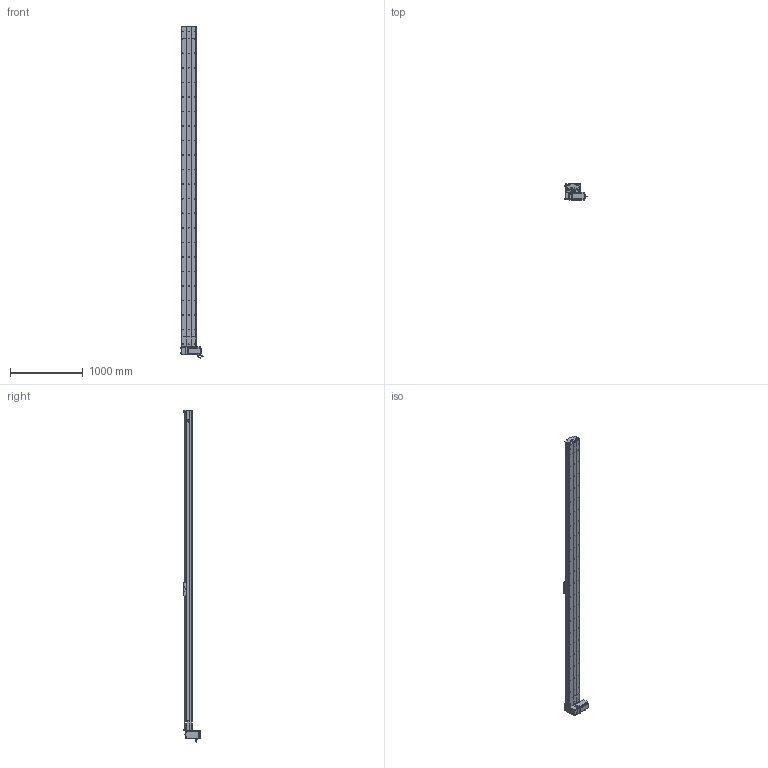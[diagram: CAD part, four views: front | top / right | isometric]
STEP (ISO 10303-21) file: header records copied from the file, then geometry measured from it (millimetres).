
FILE_DESCRIPTION (( 'STEP AP214' ), '1' );
FILE_NAME ('D20 TBH RU S4100.STEP', '2010-07-01T09:17:35', ( 'Conseil Régional Haute-Normandie' ), ( 'Conseil Régional Haute-Normandie' ), 'SwSTEP 2.0', 'SolidWorks 2010', '' );
FILE_SCHEMA (( 'AUTOMOTIVE_DESIGN' ));
Length unit declared in the file: millimetre
Products named in the file (40): Course B L4100_Default; D20 TBH RU S4100; rail tail D20; vis M5 L8 90°_Default; Conecteur2_Default; codeur 110BLDC170A-630x; vis M5 L25_Default; Conecteur_Default; vis M5 L12_Default; tete d''axe poulie D20B; vis M8 L12_Default; clavette; couvercle tail D20_Default; Couroie tail D20_Default; plaque de  bout tail D20_Default; tail D20+100_Default; poulie tail D20_Default; corpl tail D20 +100_Default; rail + couroie  D20 S4100; couvercle D20 S4100_Default; corp D20 S4100_Default; head RU_Default; guide D20B; Chariot D20B; chariot D20B_Default; couvercle head D20_Default; rail head D20; corpl head D20_Default; cache arbre D20_Default; plaque de  bout head D20B RU_Default; poulie head D20_Default; vis M5 L5_Default; couroie_Default; cache D20_Default; vis M5 L70_Default; Plaque racord D20LH_Default; Renvoi RU D20_Default; corps 110BLDC170A-630x; avant 110BLDC170A-630x; Moteur motionking 110BLDC170A-640x
Assembly tree (71 placements, depth 4):
  D20 TBH RU S4100
    head RU_Default
      vis M5 L5_Default  x4
      couroie_Default
      rail head D20
      cache D20_Default  x2
      vis M5 L12_Default  x10
      vis M8 L12_Default  x4
      vis M5 L25_Default  x2
      Plaque racord D20LH_Default
      vis M5 L70_Default  x4
      plaque de  bout head D20B RU_Default
      corpl head D20_Default
      cache arbre D20_Default
      couvercle head D20_Default
      Moteur motionking 110BLDC170A-640x
        Conecteur_Default
        clavette
        avant 110BLDC170A-630x
        Conecteur2_Default
        codeur 110BLDC170A-630x
        corps 110BLDC170A-630x
      poulie head D20_Default
      Renvoi RU D20_Default
    Course B L4100_Default
      couvercle D20 S4100_Default
      corp D20 S4100_Default
      rail + couroie  D20 S4100
    chariot D20B_Default
      vis M5 L12_Default  x4
      Chariot D20B
      guide D20B  x2
    tail D20+100_Default
      Couroie tail D20_Default
      plaque de  bout tail D20_Default
      couvercle tail D20_Default
      vis M5 L8 90°_Default  x2
      vis M5 L12_Default  x4
      tete d''axe poulie D20B
      vis M5 L25_Default  x2
      rail tail D20
      poulie tail D20_Default
      corpl tail D20 +100_Default
Bounding box: 304.2 x 223.2 x 4565 mm (x, y, z)
Volume: 34591063.8 mm3; surface area: 8656778 mm2
Topology: 95 solids, 95 shells, 2969 faces, 7755 edges, 5021 vertices
Faces by surface type: plane 1666, cylinder 979, bspline 136, cone 99, torus 89
Entity records: 98504 total; most frequent: CARTESIAN_POINT 32487, ORIENTED_EDGE 12166, DIRECTION 11348, EDGE_CURVE 6083, VERTEX_POINT 4007, AXIS2_PLACEMENT_3D 3792, LINE 3764, VECTOR 3764
